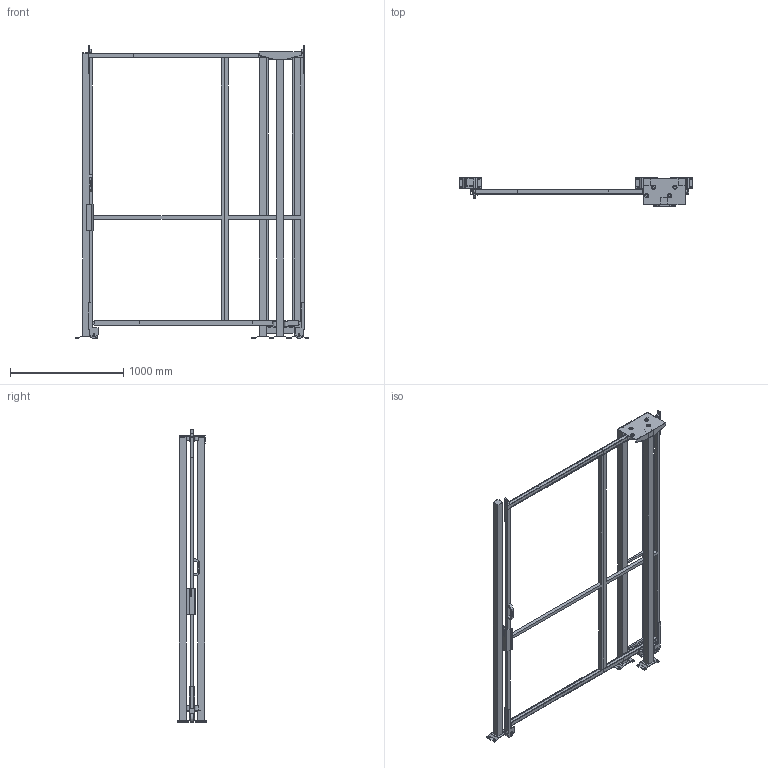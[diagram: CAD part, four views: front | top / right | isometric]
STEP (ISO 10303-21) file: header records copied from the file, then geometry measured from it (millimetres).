
FILE_DESCRIPTION(/* description */ (''),/* implementation_level */ '2;1');
FILE_NAME(/* name */ 'C:\SafeGuarding\ELABORATI\KLADKA_2025-03-20-10-15-34.stp',/* time_stamp */ '2025-03-20T10:15:37+01:00',/* author */ ('admin'),/* organization */ (''),/* preprocessor_version */ 'ST-DEVELOPER v18.1',/* originating_system */ 'AutoCAD Mechanical',/* authorisation */ '');
FILE_SCHEMA (('AUTOMOTIVE_DESIGN { 1 0 10303 214 3 1 1 }'));
Length unit declared in the file: millimetre
Products named in the file (5): Product; VFPA.REPE30.07002400; VFPA.REPE30.12002400; VFPA.REPE2002502400; P_VFMA.V360SDU.2520
Assembly tree (7 placements, depth 2):
  Product
    VFPA.REPE30.07002400
    VFPA.REPE30.12002400
    VFPA.REPE2002502400
    P_VFMA.V360SDU.2520  x4
Bounding box: 2061.97 x 264.14 x 2590.02 mm (x, y, z)
Volume: 55232054.2 mm3; surface area: 7009203.9 mm2
Topology: 48 solids, 59 shells, 501 faces, 1618 edges, 1571 vertices
Faces by surface type: plane 449, cylinder 50, sphere 2
Full cylindrical faces by diameter (mm): 9 x4, 11 x16, 13 x4, 30 x6, 36 x8, 80 x2
Entity records: 14761 total; most frequent: CARTESIAN_POINT 3152, DIRECTION 2234, ORIENTED_EDGE 2034, LINE 1100, VECTOR 1100, EDGE_CURVE 1066, VERTEX_POINT 750, AXIS2_PLACEMENT_3D 567
